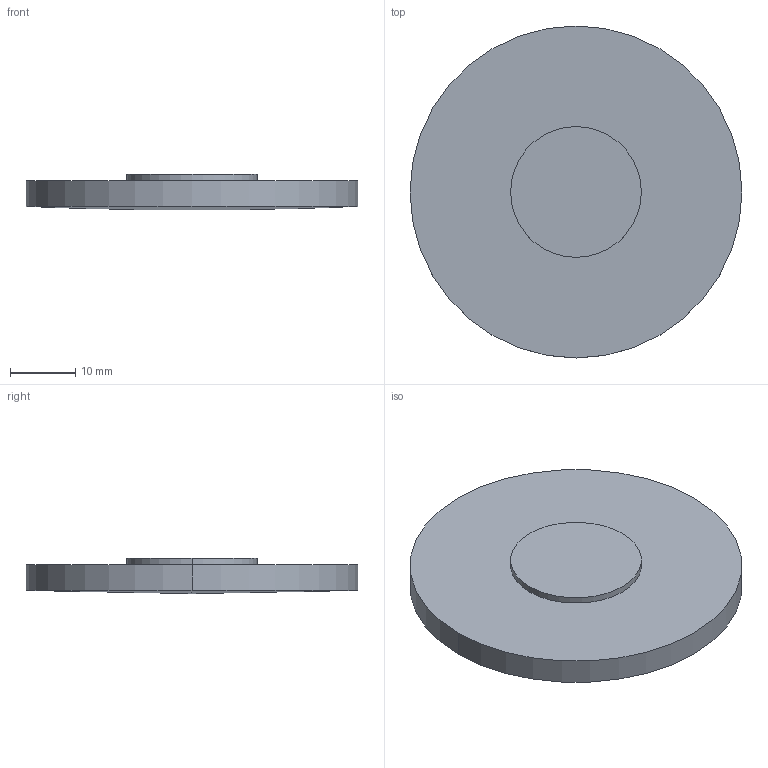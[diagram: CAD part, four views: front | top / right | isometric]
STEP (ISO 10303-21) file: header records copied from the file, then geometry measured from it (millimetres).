
FILE_DESCRIPTION(('STEP AP214'),'1');
FILE_NAME('LLG-51190.STEP','2020-03-09T17:41:41',(' '),(' '),'Spatial InterOp 3D',' ',' ');
FILE_SCHEMA(('AUTOMOTIVE_DESIGN { 1 0 10303 214 1 1 1 1 }'));
Length unit declared in the file: millimetre
Products named in the file (1): 1
Bounding box: 50.8 x 50.8 x 5.5 mm (x, y, z)
Volume: 8895 mm3; surface area: 5378.8 mm2
Topology: 2 solids, 2 shells, 9 faces, 16 edges, 9 vertices
Faces by surface type: cylinder 4, plane 3, sphere 2
Entity records: 229 total; most frequent: DIRECTION 46, CARTESIAN_POINT 34, ORIENTED_EDGE 28, AXIS2_PLACEMENT_3D 21, EDGE_CURVE 14, CIRCLE 10, ADVANCED_FACE 9, FACE_OUTER_BOUND 9
